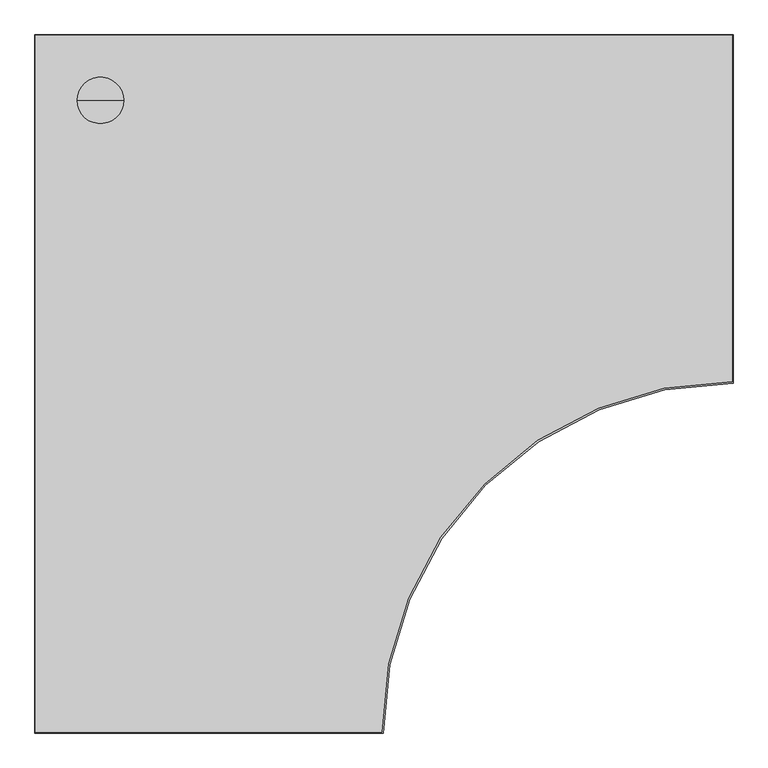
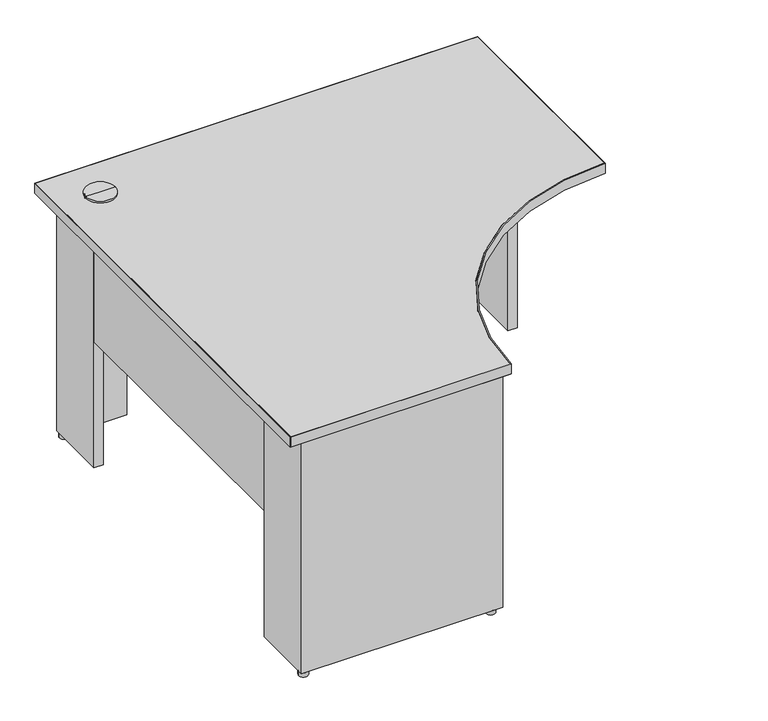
"""IFC4 building model written with IfcOpenShell, lengths in millimetres: furniture geometry, Steelcase - Kick Freestanding - Desk - Curve Corner - Partial Height Modesty Panel : 24D x 48W - Left Full End Panel/Right Clear Access Support - LPL."""

from ifc_helpers import new_model, si_unit, point, frame, frame_2d, origin, origin_with_axes, place, context, project, spatial, polyline, circle_curve, trimmed, segment, composite_curve, outline, extrude, source, transform, mapped, element, save
from ifc_brep_helpers import plane_surface, cylinder_surface, advanced_brep


def furniture_4ca69685(model_context):
    return source(origin(), model_context, "Body", "SolidModel", [
        extrude(outline(composite_curve([segment(trimmed(circle_curve(frame_2d((566.7971133, -1192.2759893)), 12.7), [point((554.0971133, -1192.2759893))], [point((579.4971133, -1192.2759893))], False, "CARTESIAN"), True, "CONTINUOUS"), segment(trimmed(circle_curve(frame_2d((566.7971133, -1192.2759893)), 12.7), [point((579.4971133, -1192.2759893))], [point((554.0971133, -1192.2759893))], False, "CARTESIAN"), True, "CONTINUOUS")], self_intersect=False)), origin_with_axes(), (0.0, 0.0, 1.0), 12.446),
        extrude(outline(polyline([(1026.4393822, -63.5), (1026.4393822, -38.1), (1204.2393579, -38.1), (1204.2393579, -215.8999939), (1178.3313463, -215.8999939), (1178.3313463, -63.5), (1026.4393822, -63.5)])), frame((0.0, 0.0, 12.446), z_axis=(0.0, 0.0, 1.0), x_axis=(1.0, 0.0, 0.0)), (0.0, 0.0, 1.0), 682.498),
        extrude(outline(polyline([(215.8999939, -63.5), (63.5, -63.5), (63.5, -215.8999939), (38.1, -215.8999939), (38.1, -38.1), (215.8999939, -38.1), (215.8999939, -63.5)])), frame((0.0, 0.0, 12.446), z_axis=(0.0, 0.0, 1.0), x_axis=(1.0, 0.0, 0.0)), (0.0, 0.0, 1.0), 682.498),
        extrude(outline(polyline([(63.5, -1027.4300194), (63.5, -1179.8300194), (161.3662, -1179.8300194), (161.3662, -1199.4895822), (261.0866, -1199.4895822), (261.0866, -1179.8300194), (369.824, -1179.8300194), (369.824, -1199.4895822), (469.5444, -1199.4895822), (469.5444, -1179.8300194), (592.582, -1179.8300194), (592.582, -1205.2299952), (38.1, -1205.2299952), (38.1, -1027.4300194), (63.5, -1027.4300194)])), frame((0.0, 0.0, 12.446), z_axis=(0.0, 0.0, 1.0), x_axis=(1.0, 0.0, 0.0)), (0.0, 0.0, 1.0), 682.498),
        advanced_brep(
        [(114.3, -114.3, 728.98), (154.94, -114.3, 728.98), (73.66, -114.3, 728.98), (76.1699693, -114.3, 694.944), (152.4300307, -114.3, 694.944), (114.3, -114.3, 694.944), (76.1699693, -114.3, 723.9), (152.4300307, -114.3, 723.9), (73.66, -114.3, 723.9), (154.94, -114.3, 723.9)],
        [
            (0, 1),
            (1, 2, circle_curve(frame((114.3, -114.3, 728.98), z_axis=(0.0, 0.0, 1.0), x_axis=(1.0, 0.0, 0.0)), 40.64)),
            (2, 0),
            (2, 1, circle_curve(frame((114.3, -114.3, 728.98), z_axis=(0.0, 0.0, 1.0), x_axis=(1.0, 0.0, 0.0)), 40.64)),
            (3, 4, circle_curve(frame((114.3, -114.3, 694.944), z_axis=(0.0, 0.0, -1.0), x_axis=(1.0, 0.0, 0.0)), 38.1300307)),
            (4, 5),
            (5, 3),
            (4, 3, circle_curve(frame((114.3, -114.3, 694.944), z_axis=(0.0, 0.0, -1.0), x_axis=(1.0, 0.0, 0.0)), 38.1300307)),
            (6, 7, circle_curve(frame((114.3, -114.3, 723.9), z_axis=(0.0, 0.0, -1.0), x_axis=(1.0, 0.0, 0.0)), 38.1300307)),
            (7, 4),
            (3, 6),
            (7, 6, circle_curve(frame((114.3, -114.3, 723.9), z_axis=(0.0, 0.0, -1.0), x_axis=(1.0, 0.0, 0.0)), 38.1300307)),
            (8, 9, circle_curve(frame((114.3, -114.3, 723.9), z_axis=(0.0, 0.0, -1.0), x_axis=(1.0, 0.0, 0.0)), 40.64)),
            (9, 7),
            (6, 8),
            (9, 8, circle_curve(frame((114.3, -114.3, 723.9), z_axis=(0.0, 0.0, -1.0), x_axis=(1.0, 0.0, 0.0)), 40.64)),
            (1, 9),
            (8, 2),
        ],
        [
            plane_surface(frame((114.3, -114.3, 728.98), z_axis=(0.0, 0.0, 1.0), x_axis=(1.0, 0.0, 0.0))),
            plane_surface(frame((114.3, -114.3, 694.944), z_axis=(0.0, 0.0, -1.0), x_axis=(1.0, 0.0, 0.0))),
            cylinder_surface(frame((114.3, -114.3, 728.98), z_axis=(0.0, 0.0, 1.0), x_axis=(1.0, 0.0, 0.0)), 38.1300307),
            plane_surface(frame((114.3, -114.3, 723.9), z_axis=(0.0, 0.0, -1.0), x_axis=(1.0, 0.0, 0.0))),
            cylinder_surface(frame((114.3, -114.3, 728.98), z_axis=(0.0, 0.0, 1.0), x_axis=(1.0, 0.0, 0.0)), 40.64),
        ],
        [
            (0, [[1, 2, 3]]),
            (0, [[-3, 4, -1]]),
            (1, [[5, 6, 7]]),
            (1, [[8, -7, -6]]),
            (2, [[9, 10, -5, 11]]),
            (2, [[12, -11, -8, -10]]),
            (3, [[13, 14, -9, 15]]),
            (3, [[16, -15, -12, -14]]),
            (4, [[-2, 17, -13, 18]]),
            (4, [[-4, -18, -16, -17]]),
        ],
    ),
        extrude(outline(composite_curve([segment(trimmed(circle_curve(frame_2d((50.8, -50.8)), 12.7), [point((38.1, -50.8))], [point((63.5, -50.8))], False, "CARTESIAN"), True, "CONTINUOUS"), segment(trimmed(circle_curve(frame_2d((50.8, -50.8)), 12.7), [point((63.5, -50.8))], [point((38.1, -50.8))], False, "CARTESIAN"), True, "CONTINUOUS")], self_intersect=False)), origin_with_axes(), (0.0, 0.0, 1.0), 12.446),
        extrude(outline(composite_curve([segment(trimmed(circle_curve(frame_2d((50.8, -1192.5300073)), 12.7484998), [point((38.0515002, -1192.5300073))], [point((63.5484998, -1192.5300073))], False, "CARTESIAN"), True, "CONTINUOUS"), segment(trimmed(circle_curve(frame_2d((50.8, -1192.5300073)), 12.7484998), [point((63.5484998, -1192.5300073))], [point((38.0515002, -1192.5300073))], False, "CARTESIAN"), True, "CONTINUOUS")], self_intersect=False)), origin_with_axes(), (0.0, 0.0, 1.0), 12.446),
        extrude(outline(composite_curve([segment(trimmed(circle_curve(frame_2d((1191.2853521, -50.8)), 12.7), [point((1178.5853521, -50.8))], [point((1203.9853521, -50.8))], False, "CARTESIAN"), True, "CONTINUOUS"), segment(trimmed(circle_curve(frame_2d((1191.2853521, -50.8)), 12.7), [point((1203.9853521, -50.8))], [point((1178.5853521, -50.8))], False, "CARTESIAN"), True, "CONTINUOUS")], self_intersect=False)), origin_with_axes(), (0.0, 0.0, 1.0), 12.446),
        extrude(outline(polyline([(63.5, -215.8999939), (63.5, -1027.4300194), (38.1, -1027.4300194), (38.1, -215.8999939), (63.5, -215.8999939)])), frame((0.0, 0.0, 379.476), z_axis=(0.0, 0.0, 1.0), x_axis=(1.0, 0.0, 0.0)), (0.0, 0.0, 1.0), 315.468),
        extrude(outline(polyline([(1026.4393822, -38.1), (1026.4393822, -63.5), (215.8999939, -63.5), (215.8999939, -38.1), (1026.4393822, -38.1)])), frame((0.0, 0.0, 379.476), z_axis=(0.0, 0.0, 1.0), x_axis=(1.0, 0.0, 0.0)), (0.0, 0.0, 1.0), 315.468),
        extrude(outline(composite_curve([segment(polyline([(0.9906, -1218.2093628), (0.9906, -0.9906), (1218.2093628, -0.9906), (1218.2093628, -605.3354109)]), True, "CONTINUOUS"), segment(trimmed(circle_curve(frame_2d((1216.9393458, -1216.9393458)), 611.6052536), [point((1218.2093628, -605.3354109))], [point((605.3354109, -1218.2093628))], True, "CARTESIAN"), True, "CONTINUOUS"), segment(polyline([(605.3354109, -1218.2093628), (0.9906, -1218.2093628)]), True, "CONTINUOUS")], self_intersect=False)), frame((0.0, 0.0, 694.944), z_axis=(0.0, 0.0, 1.0), x_axis=(1.0, 0.0, 0.0)), (0.0, 0.0, 1.0), 28.956),
        extrude(outline(composite_curve([segment(polyline([(1219.2, 0.0), (1219.2, -608.332629)]), True, "CONTINUOUS"), segment(trimmed(circle_curve(frame_2d((1217.929983, -1217.929983)), 609.598677), [point((1219.2, -608.332629))], [point((608.332629, -1219.2))], True, "CARTESIAN"), True, "CONTINUOUS"), segment(polyline([(608.332629, -1219.2), (0.0, -1219.2), (0.0, 0.0), (1219.2, 0.0)]), True, "CONTINUOUS")], self_intersect=False), holes=[composite_curve([segment(polyline([(1218.2093628, -0.9906), (0.9906, -0.9906), (0.9906, -1218.2093628), (605.3354109, -1218.2093628)]), True, "CONTINUOUS"), segment(trimmed(circle_curve(frame_2d((1216.9393458, -1216.9393458)), 611.6052536), [point((605.3354109, -1218.2093628))], [point((1218.2093628, -605.3354109))], False, "CARTESIAN"), True, "CONTINUOUS"), segment(polyline([(1218.2093628, -605.3354109), (1218.2093628, -0.9906)]), True, "CONTINUOUS")], self_intersect=False)]), frame((0.0, 0.0, 694.944), z_axis=(0.0, 0.0, 1.0), x_axis=(1.0, 0.0, 0.0)), (0.0, 0.0, 1.0), 28.956),
    ])


if __name__ == "__main__":
    model = new_model("IFC4")
    model_context = context("Model", 3, world=origin())
    ifc_project = project(units=[si_unit("LENGTHUNIT", "METRE", prefix="MILLI")], contexts=[model_context])
    site = spatial("IfcSite", under=ifc_project)
    building = spatial("IfcBuilding", under=site)
    placement = place(None, origin())
    furniture_shape = furniture_4ca69685(model_context)
    element("IfcFurniture", 1, ObjectType="Steelcase - Kick Freestanding - Desk - Curve Corner - Partial Height Modesty Panel : 24D x 48W - Left Full End Panel/Right Clear Access Support - LPL", at=placement, inside=building, context=model_context, shape_type="MappedRepresentation", body=[
        mapped(furniture_shape, transform((0.0, 0.0, 0.0), x_axis=(1.0, 0.0, 0.0), y_axis=(0.0, 1.0, 0.0), z_axis=(0.0, 0.0, 1.0))),
    ])
    save(model, "model.ifc")
